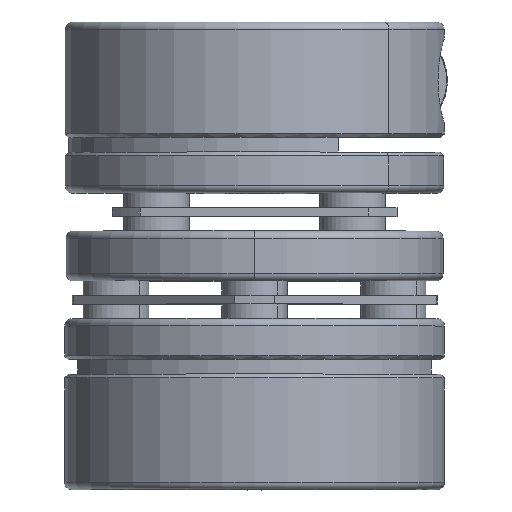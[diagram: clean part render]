
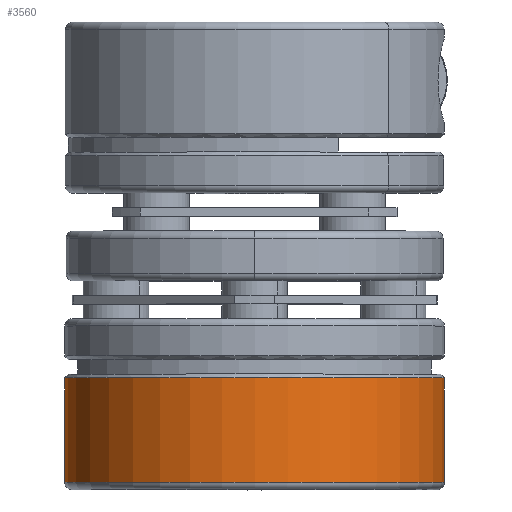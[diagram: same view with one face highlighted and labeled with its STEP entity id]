
A CAD part, top view. The second image highlights one B-rep face of the part: STEP entity #3560.
In plain terms, the highlighted cylindrical face has radius 13 mm (diameter 26 mm), a partial arc.
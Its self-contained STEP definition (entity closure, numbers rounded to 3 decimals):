
#264 = FACE_OUTER_BOUND ( 'NONE', #596, .T. ) ;
#286 = DIRECTION ( 'NONE',  ( 0., 0., 1. ) ) ;
#392 = CARTESIAN_POINT ( 'NONE',  ( -13., 0., 0.5 ) ) ;
#596 = EDGE_LOOP ( 'NONE', ( #3533, #6935, #1154, #5437 ) ) ;
#649 = CARTESIAN_POINT ( 'NONE',  ( 0., 0., 7.65 ) ) ;
#750 = DIRECTION ( 'NONE',  ( 1., 0., 0. ) ) ;
#1154 = ORIENTED_EDGE ( 'NONE', *, *, #2427, .T. ) ;
#1206 = LINE ( 'NONE', #2810, #4269 ) ;
#1489 = DIRECTION ( 'NONE',  ( 0., 0., -1. ) ) ;
#1515 = CARTESIAN_POINT ( 'NONE',  ( 0., 0., 0.5 ) ) ;
#2427 = EDGE_CURVE ( 'NONE', #6633, #4712, #4666, .T. ) ;
#2810 = CARTESIAN_POINT ( 'NONE',  ( 13., 0., 7.9 ) ) ;
#3050 = DIRECTION ( 'NONE',  ( -1., 0., 0. ) ) ;
#3204 = VECTOR ( 'NONE', #6257, 1000. ) ;
#3273 = VERTEX_POINT ( 'NONE', #3812 ) ;
#3376 = DIRECTION ( 'NONE',  ( 0., 0., -1. ) ) ;
#3402 = CARTESIAN_POINT ( 'NONE',  ( 13., 0., 0.5 ) ) ;
#3533 = ORIENTED_EDGE ( 'NONE', *, *, #5736, .T. ) ;
#3560 = ADVANCED_FACE ( 'NONE', ( #264 ), #4084, .T. ) ;
#3617 = VERTEX_POINT ( 'NONE', #5848 ) ;
#3683 = DIRECTION ( 'NONE',  ( 1., 0., 0. ) ) ;
#3812 = CARTESIAN_POINT ( 'NONE',  ( 13., 0., 7.65 ) ) ;
#3926 = DIRECTION ( 'NONE',  ( 0., 0., -1. ) ) ;
#4070 = LINE ( 'NONE', #5789, #3204 ) ;
#4084 = CYLINDRICAL_SURFACE ( 'NONE', #6878, 13. ) ;
#4269 = VECTOR ( 'NONE', #3376, 1000. ) ;
#4666 = CIRCLE ( 'NONE', #5590, 13. ) ;
#4712 = VERTEX_POINT ( 'NONE', #392 ) ;
#5184 = EDGE_CURVE ( 'NONE', #3273, #6633, #1206, .T. ) ;
#5309 = CARTESIAN_POINT ( 'NONE',  ( 0., 0., 7.9 ) ) ;
#5437 = ORIENTED_EDGE ( 'NONE', *, *, #6697, .F. ) ;
#5590 = AXIS2_PLACEMENT_3D ( 'NONE', #1515, #286, #3683 ) ;
#5736 = EDGE_CURVE ( 'NONE', #3617, #3273, #6046, .T. ) ;
#5789 = CARTESIAN_POINT ( 'NONE',  ( -13., 0., 7.9 ) ) ;
#5848 = CARTESIAN_POINT ( 'NONE',  ( -13., 0., 7.65 ) ) ;
#6046 = CIRCLE ( 'NONE', #6845, 13. ) ;
#6257 = DIRECTION ( 'NONE',  ( 0., 0., -1. ) ) ;
#6633 = VERTEX_POINT ( 'NONE', #3402 ) ;
#6697 = EDGE_CURVE ( 'NONE', #3617, #4712, #4070, .T. ) ;
#6845 = AXIS2_PLACEMENT_3D ( 'NONE', #649, #3926, #750 ) ;
#6878 = AXIS2_PLACEMENT_3D ( 'NONE', #5309, #1489, #3050 ) ;
#6935 = ORIENTED_EDGE ( 'NONE', *, *, #5184, .T. ) ;
